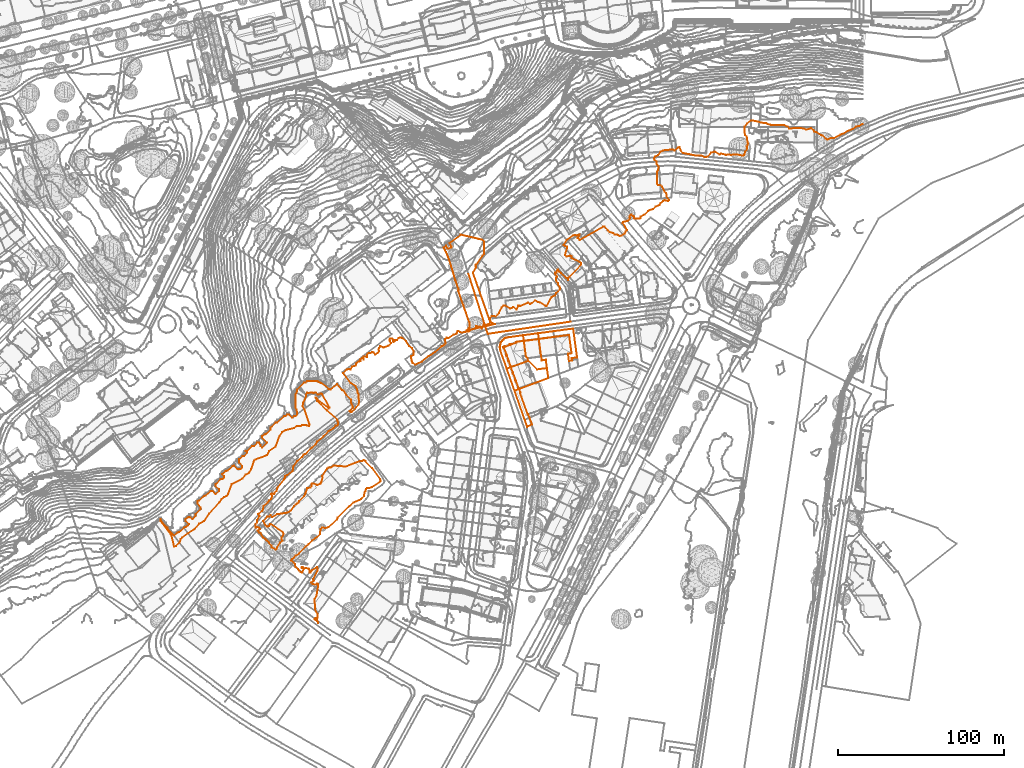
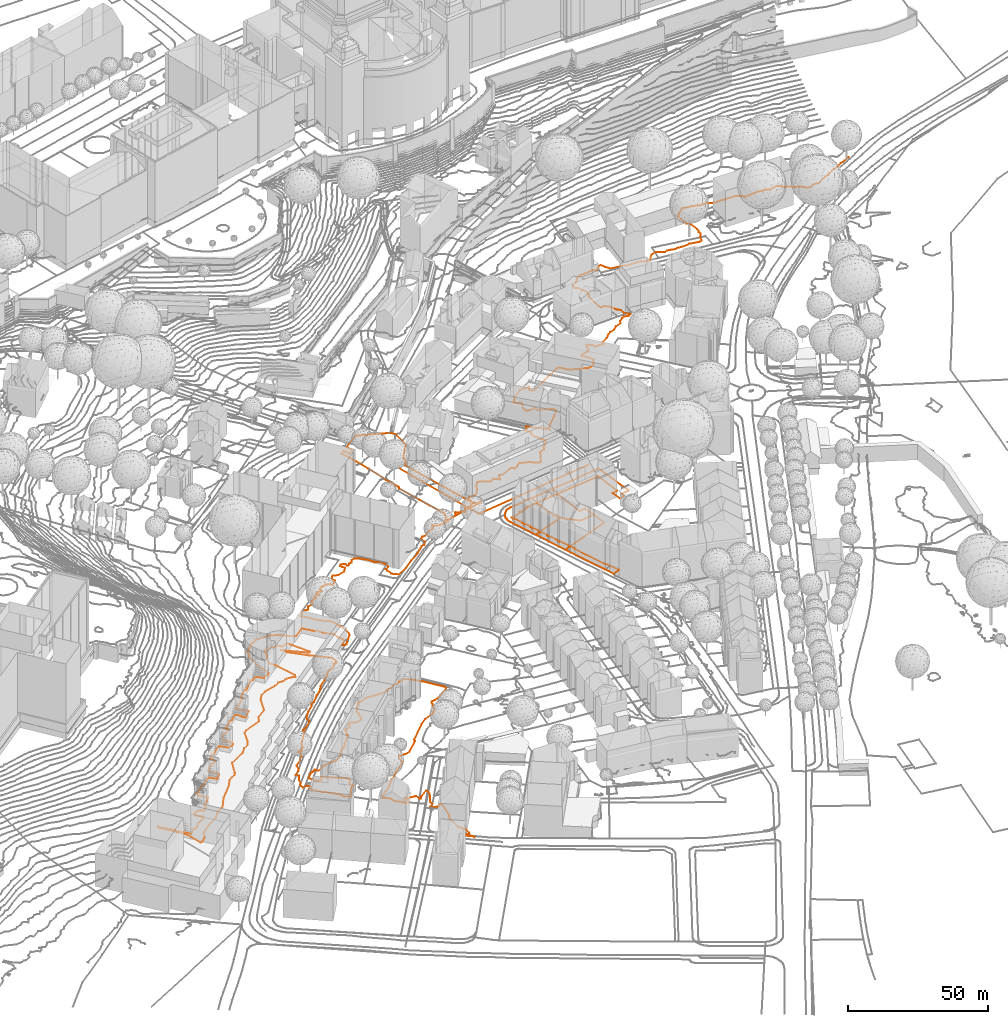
# Not in any storey, part 176 of 477: 4 civil elements, 4 geographic elements.
"""IFC4 model written with IfcOpenShell, lengths in metres."""

import ifcopenshell
import ifcopenshell.guid

model = None  # the IFC model being written
_history = None  # IfcOwnerHistory: only IFC2X3 demands one
_inside = {}  # id of a spatial element -> (the spatial element, [elements in it])
_under = {}  # id of a project, library or spatial element -> (it, [spatial elements below it])
_declared = {}  # id of a project -> (the project, [libraries it declares])
_typed = {}  # id of a type object -> (the type object, [elements of that type])
_made_of = {}  # id of a material, layer set ... -> (it, [elements and type objects made of it])


def new_model(schema):
    """Start an empty IFC model of exactly this schema.

    Asked for "IFC4X3", IfcOpenShell would pick the latest addendum, in which some entities
    have other attributes; the version numbers below select the first issue.
    IFC2X3 requires an IfcOwnerHistory on every rooted entity: one is made here for all.
    """
    global model, _history
    if schema == "IFC4X3":
        model = ifcopenshell.file(schema_version=(4, 3, 0, 0))
    else:
        model = ifcopenshell.file(schema=schema)
    _inside.clear()
    _under.clear()
    _declared.clear()
    _typed.clear()
    _made_of.clear()
    _history = None
    if model.schema == "IFC2X3":
        org = make("IfcOrganization", Name="unknown")
        user = make(
            "IfcPersonAndOrganization",
            ThePerson=make("IfcPerson", FamilyName="unknown"),
            TheOrganization=org,
        )
        app = make(
            "IfcApplication",
            ApplicationDeveloper=org,
            Version="unknown",
            ApplicationFullName="unknown",
            ApplicationIdentifier="unknown",
        )
        _history = make(
            "IfcOwnerHistory",
            OwningUser=user,
            OwningApplication=app,
            ChangeAction="ADDED",
            CreationDate=0,
        )
    return model


def make(cls, **values):
    """One entity of the class cls with the attributes given. An attribute that is None is left unset."""
    return model.create_entity(
        cls, **{name: value for name, value in values.items() if value is not None}
    )


def entity(cls, *values):
    """Any entity or typed value of the class cls, its attributes in the order of the schema. None: left unset."""
    e = model.create_entity(cls)
    for i, value in enumerate(values):
        if value is not None:
            e[i] = value
    return e


def rooted(cls, **values):
    """An entity with a GlobalId (a new one), such as an element, a storey or a relation."""
    return make(cls, GlobalId=ifcopenshell.guid.new(), OwnerHistory=_history, **values)


def si_unit(unit_type, name, prefix=None):
    """IfcSIUnit, for example si_unit("LENGTHUNIT", "METRE", prefix="MILLI")."""
    return make("IfcSIUnit", UnitType=unit_type, Prefix=prefix, Name=name)


def assignment(units):
    """IfcUnitAssignment: the units of a project."""
    return None if units is None else make("IfcUnitAssignment", Units=units)


def point(xyz):
    """IfcCartesianPoint."""
    return None if xyz is None else make("IfcCartesianPoint", Coordinates=xyz)


def direction(xyz):
    """IfcDirection."""
    return None if xyz is None else make("IfcDirection", DirectionRatios=xyz)


def frame(location, z_axis=None, x_axis=None):
    """IfcAxis2Placement3D, a coordinate frame: its origin and axes. An axis left out is left unset."""
    return make(
        "IfcAxis2Placement3D",
        Location=point(location),
        Axis=direction(z_axis),
        RefDirection=direction(x_axis),
    )


def origin_with_axes():
    """The frame at (0, 0, 0) with the z axis (0, 0, 1) and the x axis (1, 0, 0) written out."""
    return frame((0.0, 0.0, 0.0), z_axis=(0.0, 0.0, 1.0), x_axis=(1.0, 0.0, 0.0))


def place(relative_to, where):
    """IfcLocalPlacement: puts the frame where relative to a parent placement (None: the world)."""
    return make(
        "IfcLocalPlacement", PlacementRelTo=relative_to, RelativePlacement=where
    )


def context(
    kind, dimensions, precision=None, world=None, true_north=None, identifier=None
):
    """IfcGeometricRepresentationContext, for example the 3D "Model" context."""
    return make(
        "IfcGeometricRepresentationContext",
        ContextIdentifier=identifier,
        ContextType=kind,
        CoordinateSpaceDimension=dimensions,
        Precision=precision,
        WorldCoordinateSystem=world,
        TrueNorth=true_north,
    )


def subcontext(parent, identifier, kind, view, scale=None):
    """IfcGeometricRepresentationSubContext, for example "Body" below "Model"."""
    return make(
        "IfcGeometricRepresentationSubContext",
        ContextIdentifier=identifier,
        ContextType=kind,
        ParentContext=parent,
        TargetScale=scale,
        TargetView=view,
    )


def project(units=None, contexts=None):
    """IfcProject with its units and contexts."""
    return rooted(
        "IfcProject",
        Name="project",
        RepresentationContexts=contexts,
        UnitsInContext=assignment(units),
    )


def spatial(cls, under=None, at=None, **own):
    """A site, building, storey or space (cls), placed at a placement, below another one or the project."""
    s = rooted(cls, ObjectPlacement=at, **own)
    if under is not None:
        _under.setdefault(under.id(), (under, []))[1].append(s)
    return s


def shape(context_of_items, identifier, shape_type, items):
    """IfcShapeRepresentation: the items that make up one representation, for example the "Body"."""
    return make(
        "IfcShapeRepresentation",
        ContextOfItems=context_of_items,
        RepresentationIdentifier=identifier,
        RepresentationType=shape_type,
        Items=items,
    )


def made_of(thing, what):
    """Note that an element or type object is made of a material, layer set ...; save() writes the relation."""
    if what is not None:
        _made_of.setdefault(what.id(), (what, []))[1].append(thing)
    return thing


def element(
    cls,
    number,
    at=None,
    inside=None,
    cuts=None,
    type_object=None,
    material=None,
    context=None,
    identifier="Body",
    shape_type=None,
    held_by="IfcProductDefinitionShape",
    body=None,
    shapes=None,
    **own,
):
    """One element of the class cls, such as IfcWall. Its Tag is "e" and its number.

    at: its placement. inside: the storey or other place that contains it. cuts: it is an
    opening in that element (IfcRelVoidsElement). A single representation is given by context,
    identifier, shape_type and body (its items); several are given by shapes. held_by: the class
    of the entity that holds the representations. save() writes the other relations.
    """
    e = rooted(cls, Tag="e%d" % number, ObjectPlacement=at, **own)
    if body is not None:
        shapes = [shape(context, identifier, shape_type, body)]
    if shapes is not None:
        e.Representation = make(held_by, Representations=shapes)
    if inside is not None:
        _inside.setdefault(inside.id(), (inside, []))[1].append(e)
    if cuts is not None:
        rooted(
            "IfcRelVoidsElement", RelatingBuildingElement=cuts, RelatedOpeningElement=e
        )
    if type_object is not None:
        _typed.setdefault(type_object.id(), (type_object, []))[1].append(e)
    return made_of(e, material)


def aggregate(whole, parts):
    """IfcRelAggregates: a whole, such as a stair, and the parts it consists of."""
    return rooted("IfcRelAggregates", RelatingObject=whole, RelatedObjects=parts)


def save(model, path):
    """Write the relations noted so far, then the file.

    IfcRelAggregates (storeys below a building ...), IfcRelContainedInSpatialStructure (elements
    in a storey), IfcRelDefinesByType, IfcRelAssociatesMaterial and IfcRelDeclares: one each for
    every whole, place, type object, material and project.
    """
    for whole, parts in _under.values():
        aggregate(whole, parts)
    for where, things in _inside.values():
        rooted(
            "IfcRelContainedInSpatialStructure",
            RelatedElements=things,
            RelatingStructure=where,
        )
    for kind, things in _typed.values():
        rooted("IfcRelDefinesByType", RelatedObjects=things, RelatingType=kind)
    for what, things in _made_of.values():
        rooted("IfcRelAssociatesMaterial", RelatedObjects=things, RelatingMaterial=what)
    for by, libraries in _declared.values():
        rooted("IfcRelDeclares", RelatingContext=by, RelatedDefinitions=libraries)
    model.write(path)


model = new_model("IFC4")

# Units and contexts
model_context = context("Model", 3, precision=1e-05, world=origin_with_axes())
body_context = subcontext(model_context, "Body", "Model", "MODEL_VIEW")
ifc_project = project(units=[si_unit("AREAUNIT", "SQUARE_METRE"), si_unit("LENGTHUNIT", "METRE")], contexts=[model_context])

# Sites
site_1_placement = place(None, origin_with_axes())
site_1 = spatial("IfcSite", under=ifc_project, at=site_1_placement, Name="Topoexport Site")
site_2_placement = place(site_1_placement, origin_with_axes())
site_2 = spatial("IfcSite", under=site_1, at=site_2_placement, Name="TPX_ROADS")

# Civil elements
civil_element_1_placement = place(site_2_placement, frame((462.358732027, 172.6317378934, 502.819), z_axis=(0.0, 0.0, 1.0), x_axis=(1.0, 0.0, 0.0)))
element("IfcCivilElement", 1, at=civil_element_1_placement, inside=site_2, Name="Road 162", ObjectType="ROAD", context=body_context, shape_type="GeometricCurveSet", body=[
    entity("IfcGeometricCurveSet", [entity("IfcIndexedPolyCurve", entity("IfcCartesianPointList3D", [[0.0, 0.0, 0.0], [49.6329999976, 7.3419997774, -0.313]]))]),
])
civil_element_2_placement = place(site_2_placement, frame((450.5677320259, 209.2797367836, 504.808), z_axis=(0.0, 0.0, 1.0), x_axis=(1.0, 0.0, 0.0)))
element("IfcCivilElement", 2, at=civil_element_2_placement, inside=site_2, Name="Road 190", ObjectType="ROAD", context=body_context, shape_type="GeometricCurveSet", body=[
    entity("IfcGeometricCurveSet", [entity("IfcIndexedPolyCurve", entity("IfcCartesianPointList3D", [[0.0, 0.0, 0.0], [11.7910000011, -36.6479988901, -1.989]]))]),
])

# Site
site_3_placement = place(site_1_placement, origin_with_axes())
site_3 = spatial("IfcSite", under=site_1, at=site_3_placement, Name="TPX_ROADS_OUTLINES")

# Civil elements
civil_element_3_placement = place(site_3_placement, frame((469.5587320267, 164.6087160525, 502.6723636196), z_axis=(0.0, 0.0, 1.0), x_axis=(1.0, 0.0, 0.0)))
element("IfcCivilElement", 3, at=civil_element_3_placement, inside=site_3, Name="Roads Outline 124", ObjectType="ROAD", context=body_context, shape_type="GeometricCurveSet", body=[
    entity("IfcGeometricCurveSet", [entity("IfcIndexedPolyCurve", entity("IfcCartesianPointList3D", [[0.3319999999, -1.9370000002, -0.0261911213], [0.1499999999, -1.3050000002, -0.0211173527], [0.0389999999, -0.656, -0.0157066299], [0.0, 0.0, 0.0], [0.0320000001, 0.6569999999, 0.0219089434], [0.1359999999, 1.307, 0.044104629], [0.3110000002, 1.9409999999, 0.0722247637], [0.554, 2.5519999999, 0.0823953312], [0.8620000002, 3.1329999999, 0.0780702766], [1.2379999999, 3.6839999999, 0.0678239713], [1.6719999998, 4.189, 0.079207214], [2.1600000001, 4.6429999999, 0.1172548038], [2.6949999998, 5.04, 0.1460648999], [3.2710000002, 5.3759999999, 0.1431471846], [3.8810000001, 5.645, 0.1394918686], [4.517, 5.845, 0.136038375], [5.1710000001, 5.973, 0.1343980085], [14.0299999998, 7.1629999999, 0.1014481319], [23.0290000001, 8.3729999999, 0.0641177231], [32.2480000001, 9.6139999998, 0.0109480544], [44.1260000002, 11.2139999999, 0.1710464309], [44.6540000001, 7.388, 0.0711498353], [44.6579999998, 7.3589999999, 0.0715601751], [46.5189999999, -6.1400000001, 0.2319731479], [43.2990000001, -6.584, -0.0811795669], [43.5010000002, -7.9910000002, -0.1553223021], [41.6179999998, -8.2620000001, -0.1706678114], [41.0240000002, -3.952, -0.2284783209], [43.1949999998, -3.6570000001, -0.2198172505], [41.7030000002, 7.3829999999, -0.1010707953], [33.0070000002, 6.1839999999, -0.0295043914], [32.9959999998, 6.264, -0.0297852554], [32.7089999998, 6.2239999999, -0.0277475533], [32.1239999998, 6.149, -0.0181783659], [32.1349999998, 6.0689999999, -0.0174580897], [29.5460000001, 5.727, 0.0904996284], [29.5359999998, 5.8059999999, 0.0921595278], [28.932, 5.726, 0.0677763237], [28.9419999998, 5.6469999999, 0.0661192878], [26.4049999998, 5.311, 0.0237884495], [26.395, 5.3899999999, 0.0256490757], [25.77, 5.307, 0.0284070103], [25.7799999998, 5.2279999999, 0.026546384], [23.4900000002, 4.9039999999, 0.0468456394], [21.1800000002, 4.6189999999, 0.0289938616], [21.1699999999, 4.6979999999, 0.0306465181], [20.5449999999, 4.615, 0.0310401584], [20.5550000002, 4.5359999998, 0.0291153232], [18.0, 4.1979999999, 0.047814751], [17.9890000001, 4.277, 0.0492596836], [17.3640000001, 4.1939999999, 0.0376280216], [17.3739999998, 4.115, 0.0361381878], [14.8169999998, 3.7759999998, 0.0399817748], [14.807, 3.855, 0.042619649], [14.4789999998, 3.8119999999, 0.0467001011], [10.7429999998, 3.317, 0.0565326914], [10.682, 3.5179999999, 0.0641525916], [9.838, 3.199, 0.0395894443], [9.9700000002, 2.848, 0.0298407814], [6.7429999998, 1.6299999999, 0.0740863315], [6.611, 1.9809999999, 0.0869099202], [6.0120000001, 1.7549999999, 0.0915891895], [6.1439999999, 1.4039999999, 0.0787617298], [2.9169999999, 0.1850000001, 0.0905818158], [2.784, 0.5359999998, 0.1022453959], [1.9339999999, 0.2149999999, 0.0600805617], [2.2420000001, -0.6330000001, 0.0586928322], [2.6090000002, -0.4990000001, 0.0757825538], [4.0440000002, -4.4470000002, -0.0738280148], [3.6779999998, -4.5800000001, -0.0696418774], [3.8900000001, -5.1629999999, -0.0715661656], [4.2560000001, -5.03, -0.0793668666], [5.3530000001, -8.047, -0.0686766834], [4.9870000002, -8.1800000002, -0.0605836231], [5.202, -8.7720000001, -0.0519659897], [5.5690000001, -8.639, -0.0595674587], [6.659, -11.6370000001, -0.2319727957], [6.2919999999, -11.77, -0.2305701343], [6.4020000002, -12.0730000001, -0.2421763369], [6.5070000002, -12.362, -0.2422369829], [6.8169999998, -12.2490000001, -0.243490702], [7.9180000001, -15.2750000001, -0.283399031], [7.608, -15.388, -0.2841883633], [7.8199999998, -15.9710000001, -0.3012674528], [8.1299999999, -15.858, -0.3004359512], [9.5660000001, -19.8090000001, -0.2853481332], [9.2590000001, -19.9210000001, -0.2878133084], [9.4819999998, -20.544, -0.3027872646], [9.7919999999, -20.4310000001, -0.2989393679], [11.2880000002, -24.5390000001, -0.3297951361], [11.0780000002, -24.618, -0.3345415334], [11.29, -25.2010000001, -0.3259507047], [11.5989999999, -25.0860000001, -0.3186921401], [12.3999999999, -27.284, -0.3625339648], [12.1000000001, -27.3940000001, -0.3552436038], [16.8489999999, -40.4040000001, -0.6179314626], [17.1320000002, -40.3050000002, -0.6199954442], [17.9160000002, -42.4399999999, -0.6017945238], [19.4139999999, -46.5180000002, -0.3999803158], [19.2349999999, -46.5790000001, -0.3997948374], [16.5890000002, -47.5280000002, -0.4460212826], [16.517, -47.925, -0.4575768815], [15.048, -43.7510000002, -0.4759334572], [8.8420000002, -26.118, -0.3751443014], [4.182, -12.8770000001, -0.2351152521], [0.3319999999, -1.9370000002, -0.0261911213]]))]),
])
civil_element_4_placement = place(site_3_placement, frame((435.7777320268, 224.5667160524, 506.8678124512), z_axis=(0.0, 0.0, 1.0), x_axis=(1.0, 0.0, 0.0)))
element("IfcCivilElement", 4, at=civil_element_4_placement, inside=site_3, Name="Roads Outline 133", ObjectType="ROAD", context=body_context, shape_type="GeometricCurveSet", body=[
    entity("IfcGeometricCurveSet", [entity("IfcIndexedPolyCurve", entity("IfcCartesianPointList3D", [[0.0, 0.0, 0.0], [1.574, 1.1800000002, -0.0753440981], [2.5040000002, -0.513, -0.2804932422], [2.6030000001, -0.6369999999, -0.2849304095], [2.7429999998, -0.7119999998, -0.2918651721], [2.9010000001, -0.727, -0.2989610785], [3.0520000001, -0.679, -0.3028852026], [4.5249999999, 0.088, -0.3384772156], [4.6469999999, 0.186, -0.3301687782], [4.7229999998, 0.3230000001, -0.3164536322], [4.7399999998, 0.4790000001, -0.2990198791], [4.6970000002, 0.6290000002, -0.2788312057], [3.6230000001, 2.7150000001, 0.0078996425], [10.3229999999, 7.736, -0.3838962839], [20.9249999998, 5.2110000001, -1.5080948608], [22.7510000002, 4.7760000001, -1.7125989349], [24.1710000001, 3.666, -2.0259136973], [24.1919999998, 2.5420000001, -2.0109813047], [24.3139999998, -4.0499999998, -2.1515177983], [23.3810000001, -4.899, -2.1660626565], [19.4950000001, -10.402, -1.9807447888], [19.3459999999, -10.6369999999, -1.9803013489], [19.2599999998, -10.902, -1.9829362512], [19.2439999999, -11.1799999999, -1.9927741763], [19.298, -11.453, -2.0050310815], [19.4180000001, -11.7039999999, -2.0201403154], [19.5970000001, -11.9169999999, -2.0358340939], [17.6030000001, -15.024, -2.161490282], [19.8229999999, -21.325, -2.5879884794], [27.4100000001, -42.9239999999, -3.8377351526], [27.7930000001, -44.0149999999, -3.8982199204], [27.9569999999, -44.389, -3.9158148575], [28.1710000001, -44.737, -3.9188859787], [28.4300000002, -45.0519999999, -3.9257347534], [28.7289999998, -45.3299999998, -3.9527618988], [29.0630000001, -45.5649999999, -3.9787966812], [29.4249999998, -45.753, -4.0033311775], [29.8100000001, -45.889, -4.0236272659], [30.2089999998, -45.973, -4.0439670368], [30.6159999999, -46.0019999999, -4.0582959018], [31.023, -45.9749999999, -4.0643809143], [13.8760000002, -49.9449999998, -3.8699005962], [14.3220000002, -49.6159999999, -3.8325243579], [14.7179999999, -49.2289999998, -3.8123769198], [15.0559999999, -48.791, -3.8058150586], [15.3309999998, -48.3099999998, -3.8007632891], [15.537, -47.7959999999, -3.7693880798], [15.6689999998, -47.2579999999, -3.6878566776], [15.7259999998, -46.7069999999, -3.6173345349], [15.719, -46.3049999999, -3.5851284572], [15.673, -45.905, -3.5502077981], [15.5860000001, -45.5119999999, -3.5495806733], [15.5409999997, -45.3629999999, -3.5508741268], [15.4920000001, -45.216, -3.5532168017], [13.4679999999, -39.45, -3.3145639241], [11.9780000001, -35.2049999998, -3.0498226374], [11.858, -34.8629999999, -3.0290631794], [8.7599999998, -26.037, -2.4131551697], [8.9010000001, -25.8159999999, -2.3939161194], [8.9810000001, -25.5659999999, -2.3743381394], [8.9929999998, -25.304, -2.3481829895], [8.9369999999, -25.048, -2.3059849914], [7.0550000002, -19.7379999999, -1.8873036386], [7.0189999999, -19.6359999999, -1.8800892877], [4.6119999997, -11.3129999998, -1.2294646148], [4.5619999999, -11.139, -1.2196751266], [3.2599999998, -7.3329999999, -0.8828962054], [2.7050000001, -5.825, -0.7409835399], [2.1000000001, -4.3369999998, -0.5570818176], [1.4479999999, -2.868, -0.3916074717], [0.747, -1.422, -0.1938795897], [0.0, 0.0, 0.0]]))]),
])

# Site
site_4_placement = place(site_1_placement, origin_with_axes())
site_4 = spatial("IfcSite", under=site_1, at=site_4_placement, Name="TPX_CADASTRES")

# Geographic elements
geographic_element_1_placement = place(site_4_placement, frame((473.7407320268, 151.7317160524, 502.4372483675), z_axis=(0.0, 0.0, 1.0), x_axis=(1.0, 0.0, 0.0)))
element("IfcGeographicElement", 5, at=geographic_element_1_placement, inside=site_4, Name="Cadastre 163", PredefinedType="NOTDEFINED", context=body_context, shape_type="GeometricCurveSet", body=[
    entity("IfcGeometricCurveSet", [entity("IfcIndexedPolyCurve", entity("IfcCartesianPointList3D", [[0.0, 0.0, 0.0], [2.3130000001, 0.838, -0.0093374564], [11.5970000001, 4.2, -0.0440435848], [12.923, 4.6799999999, 0.0190475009], [18.2280000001, -0.48, 0.0417653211], [24.1869999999, 0.3300000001, 0.0468724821], [24.997, -5.6199999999, -0.0432343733], [4.6600000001, -13.2409999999, -0.1400290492], [0.0, 0.0, 0.0]]))]),
])
geographic_element_2_placement = place(site_4_placement, frame((483.5887320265, 171.7717160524, 502.7738117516), z_axis=(0.0, 0.0, 1.0), x_axis=(1.0, 0.0, 0.0)))
element("IfcGeographicElement", 6, at=geographic_element_2_placement, inside=site_4, Name="Cadastre 164", PredefinedType="NOTDEFINED", context=body_context, shape_type="GeometricCurveSet", body=[
    entity("IfcGeometricCurveSet", [entity("IfcIndexedPolyCurve", entity("IfcCartesianPointList3D", [[0.0, 0.0, 0.0], [8.9990000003, 1.21, -0.0373304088], [9.4600000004, -2.2590000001, -0.0546024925], [10.8360000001, -12.612, -0.2369224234], [11.1640000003, -15.0800000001, -0.4512035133], [13.6690000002, -14.7549999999, -0.3705092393], [14.3390000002, -19.71, -0.2896909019], [8.3800000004, -20.52, -0.2947980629], [3.0750000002, -15.3600000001, -0.3175158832], [2.5850000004, -13.77, -0.2928243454], [1.7000000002, -12.6699999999, -0.3591065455], [0.452, -3.3700000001, -0.055390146], [0.0, 0.0, 0.0]]))]),
])
geographic_element_3_placement = place(site_4_placement, frame((469.5587320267, 164.6087160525, 502.6723636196), z_axis=(0.0, 0.0, 1.0), x_axis=(1.0, 0.0, 0.0)))
element("IfcGeographicElement", 7, at=geographic_element_3_placement, inside=site_4, Name="Cadastre 166", PredefinedType="NOTDEFINED", context=body_context, shape_type="GeometricCurveSet", body=[
    entity("IfcGeometricCurveSet", [entity("IfcIndexedPolyCurve", entity("IfcCartesianPointList3D", [[0.3319999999, -1.9370000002, -0.0261911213], [0.1499999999, -1.3050000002, -0.0211173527], [0.0389999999, -0.656, -0.0157066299], [0.0, 0.0, 0.0], [0.0320000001, 0.6569999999, 0.0219089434], [0.1359999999, 1.307, 0.044104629], [0.3110000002, 1.9409999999, 0.0722247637], [0.554, 2.5519999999, 0.0823953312], [0.8620000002, 3.1329999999, 0.0780702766], [1.2379999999, 3.6839999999, 0.0678239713], [1.6719999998, 4.189, 0.079207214], [2.1600000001, 4.6429999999, 0.1172548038], [2.6949999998, 5.04, 0.1460648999], [3.2710000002, 5.3759999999, 0.1431471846], [3.8810000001, 5.645, 0.1394918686], [4.517, 5.845, 0.136038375], [5.1710000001, 5.973, 0.1343980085], [14.0299999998, 7.1629999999, 0.1014481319], [14.4819999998, 3.7929999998, 0.0460579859], [15.73, -5.507, -0.2576584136], [16.6150000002, -6.6070000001, -0.1913762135], [17.105, -8.1970000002, -0.2160677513], [15.7790000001, -8.6770000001, -0.2791588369], [6.4950000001, -12.0390000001, -0.2444527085], [4.182, -12.8770000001, -0.2351152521], [0.3319999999, -1.9370000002, -0.0261911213]]))]),
])

# Site
site_5_placement = place(site_1_placement, origin_with_axes())
site_5 = spatial("IfcSite", under=site_1, at=site_5_placement, Name="TPX_CONTOUR_LINES")

# Geographic element
geographic_element_4_placement = place(site_5_placement, frame((265.3958787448, 60.1707160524, 503.0), z_axis=(0.0, 0.0, 1.0), x_axis=(1.0, 0.0, 0.0)))
element("IfcGeographicElement", 8, at=geographic_element_4_placement, inside=site_5, Name="Contour Line 503.0 m", PredefinedType="NOTDEFINED", context=body_context, shape_type="GeometricCurveSet", body=[
    entity("IfcGeometricCurveSet", [entity("IfcIndexedPolyCurve", entity("IfcCartesianPointList3D", [[422.7818532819, 238.789410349, 0.0], [422.2818532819, 238.789410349, 0.0], [420.2818532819, 237.5673653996, 0.0], [418.3680721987, 237.0, 0.0], [416.2818532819, 235.6503783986, 0.0], [413.2818532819, 234.5187478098, 0.0], [410.9166997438, 233.0, 0.0], [409.2818532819, 232.4039944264, 0.0], [405.2818532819, 230.2259304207, 0.0], [403.2818532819, 230.3204281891, 0.0], [401.2818532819, 229.3770384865, 0.0], [400.0065006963, 230.0, 0.0], [398.2818532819, 231.6435045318, 0.0], [397.2818532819, 231.9455615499, 0.0], [394.2818532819, 233.8281583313, 0.0], [393.2818532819, 234.097650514, 0.0], [392.8705413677, 235.0, 0.0], [391.2818532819, 236.1024524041, 0.0], [388.2818532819, 235.2834535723, 0.0], [386.7802809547, 236.0, 0.0], [383.2818532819, 236.3174590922, 0.0], [378.2818532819, 235.94663144, 0.0], [377.1732406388, 237.0, 0.0], [375.2818532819, 238.0171115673, 0.0], [367.2818532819, 238.1636344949, 0.0], [365.2818532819, 238.628859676, 0.0], [364.2818532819, 239.2527593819, 0.0], [361.2818532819, 239.458574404, 0.0], [359.2818532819, 240.1692148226, 0.0], [355.2818532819, 240.8845548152, 0.0], [352.8231376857, 239.0, 0.0], [351.2554307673, 237.0, 0.0], [351.6117842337, 232.0, 0.0], [352.7144495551, 231.0, 0.0], [353.3548316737, 227.0, 0.0], [353.2813609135, 226.0, 0.0], [352.7241021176, 225.0, 0.0], [353.0349441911, 224.0, 0.0], [351.7079865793, 222.0, 0.0], [351.2030987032, 220.0, 0.0], [350.2818532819, 219.6086908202, 0.0], [346.2818532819, 220.4443243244, 0.0], [343.2818532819, 220.0904869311, 0.0], [341.2818532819, 220.3807539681, 0.0], [340.2818532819, 220.0920502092, 0.0], [337.2818532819, 220.8593088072, 0.0], [336.2818532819, 220.3866049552, 0.0], [333.2818532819, 222.0442036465, 0.0], [331.2818532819, 221.4536231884, 0.0], [329.2818532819, 219.0634306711, 0.0], [327.2818532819, 218.7403290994, 0.0], [325.2818532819, 219.7896105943, 0.0], [320.2818532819, 219.8741830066, 0.0], [319.2818532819, 220.3625434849, 0.0], [314.2818532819, 221.1654501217, 0.0], [312.9737345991, 223.0, 0.0], [312.2818532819, 224.885372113, 0.0], [311.2818532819, 224.5307045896, 0.0], [309.2818532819, 222.8159831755, 0.0], [308.2818532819, 223.3997429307, 0.0], [302.2818532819, 222.8161175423, 0.0], [300.8756249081, 222.0, 0.0], [299.2818532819, 219.896353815, 0.0], [297.459254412, 219.0, 0.0], [297.0113987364, 218.0, 0.0], [297.1988657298, 217.0, 0.0], [298.3473218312, 216.0, 0.0], [298.4888532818, 215.0, 0.0], [299.6081860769, 213.0, 0.0], [299.3878984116, 211.0, 0.0], [298.6367426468, 210.0, 0.0], [298.6697819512, 203.0, 0.0], [299.2818532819, 201.8469493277, 0.0], [300.2818532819, 202.0713178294, 0.0], [301.8321035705, 201.0, 0.0], [303.3495919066, 198.0, 0.0], [304.325365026, 197.0, 0.0], [304.5229557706, 195.0, 0.0], [306.1046812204, 193.0, 0.0], [305.2818532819, 192.401115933, 0.0], [303.2818532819, 192.8372978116, 0.0], [302.2818532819, 192.3074558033, 0.0], [300.7709309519, 191.0, 0.0], [300.2818532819, 189.9667381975, 0.0], [297.890754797, 189.0, 0.0], [296.2818532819, 187.5288531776, 0.0], [294.2818532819, 186.9144981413, 0.0], [293.2818532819, 186.2340261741, 0.0], [291.2818532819, 184.2820976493, 0.0], [288.9176148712, 183.0, 0.0], [288.7176397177, 182.0, 0.0], [288.2818532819, 181.7174929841, 0.0], [286.2818532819, 181.9169769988, 0.0], [285.2818532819, 181.7314788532, 0.0], [284.9115988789, 182.0, 0.0], [284.9408198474, 183.0, 0.0], [284.2818532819, 183.1971626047, 0.0], [283.2818532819, 184.118438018, 0.0], [282.9277783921, 184.0, 0.0], [282.2177332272, 183.0, 0.0], [282.5134586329, 182.0, 0.0], [281.2818532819, 180.4616279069, 0.0], [278.2818532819, 179.8220509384, 0.0], [278.1384029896, 179.0, 0.0], [279.629118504, 177.0, 0.0], [280.6916157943, 175.0, 0.0], [279.8221439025, 174.0, 0.0], [279.2818532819, 172.7151481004, 0.0], [277.2818532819, 171.5566811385, 0.0], [276.2818532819, 171.3786363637, 0.0], [275.2818532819, 172.0087197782, 0.0], [273.2818532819, 172.3052533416, 0.0], [272.2818532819, 173.158819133, 0.0], [270.2818532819, 173.6386397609, 0.0], [269.2818532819, 174.5058329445, 0.0], [267.2818532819, 177.0895522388, 0.0], [266.2818532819, 176.879946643, 0.0], [252.2818532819, 168.9250936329, 0.0], [251.0694364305, 170.0, 0.0], [252.2818532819, 172.1073910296, 0.0], [250.2818532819, 171.6925465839, 0.0], [249.2818532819, 171.9875621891, 0.0], [248.2818532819, 171.6590136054, 0.0], [244.4708257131, 169.0, 0.0], [242.4071446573, 166.0, 0.0], [243.2818532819, 165.2638548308, 0.0], [244.4938447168, 165.0, 0.0], [244.658914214, 164.0, 0.0], [243.5989086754, 161.0, 0.0], [243.5034276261, 160.0, 0.0], [244.2818532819, 158.9934762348, 0.0], [246.2818532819, 159.4426934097, 0.0], [247.2818532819, 159.279710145, 0.0], [247.46977928, 159.0, 0.0], [247.2818532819, 157.9350649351, 0.0], [252.2818532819, 155.6773869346, 0.0], [252.9781342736, 155.0, 0.0], [253.1459761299, 154.0, 0.0], [246.1339504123, 147.0, 0.0], [245.2949919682, 146.0, 0.0], [245.2818532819, 144.9172093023, 0.0], [245.0675675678, 146.0, 0.0], [244.2818532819, 146.0203327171, 0.0], [240.888043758, 149.0, 0.0], [239.7596460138, 150.0, 0.0], [239.2818532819, 151.1021336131, 0.0], [238.7959963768, 151.0, 0.0], [238.2818532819, 149.40397351, 0.0], [237.2818532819, 149.4360189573, 0.0], [237.6654149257, 148.0, 0.0], [238.6559921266, 147.0, 0.0], [238.073062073, 146.0, 0.0], [238.1732987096, 144.0, 0.0], [239.1050620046, 143.0, 0.0], [239.1601443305, 142.0, 0.0], [240.020771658, 141.0, 0.0], [240.4233437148, 140.0, 0.0], [240.1937844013, 139.0, 0.0], [238.043401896, 137.0, 0.0], [237.2818532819, 135.6062343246, 0.0], [235.2818532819, 134.730920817, 0.0], [232.2818532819, 129.1096455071, 0.0], [231.2818532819, 129.3735632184, 0.0], [228.2818532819, 131.3860569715, 0.0], [227.2818532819, 131.5619377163, 0.0], [225.2818532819, 132.5933993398, 0.0], [223.2818532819, 130.8585774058, 0.0], [222.2818532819, 130.3657433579, 0.0], [221.2818532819, 131.2409000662, 0.0], [216.2818532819, 129.2693125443, 0.0], [215.2818532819, 129.6128550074, 0.0], [214.2818532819, 126.9456168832, 0.0], [212.2818532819, 128.6872493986, 0.0], [211.2818532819, 127.8795698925, 0.0], [210.2818532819, 127.6672394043, 0.0], [207.2818532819, 129.503720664, 0.0], [206.2818532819, 129.6037588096, 0.0], [205.2818532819, 128.3800865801, 0.0], [203.5767484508, 125.0, 0.0], [202.7188857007, 124.0, 0.0], [201.538014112, 123.0, 0.0], [199.2818532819, 123.0778748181, 0.0], [198.2818532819, 122.0912280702, 0.0], [198.5175653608, 120.0, 0.0], [198.2818532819, 119.1706521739, 0.0], [197.2818532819, 118.2560471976, 0.0], [196.2818532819, 117.8763636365, 0.0], [195.2818532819, 118.1885125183, 0.0], [194.4780856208, 118.0, 0.0], [193.2818532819, 115.6410815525, 0.0], [192.2818532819, 116.8554216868, 0.0], [191.2818532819, 116.5094001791, 0.0], [190.2818532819, 117.2646310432, 0.0], [189.7642062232, 117.0, 0.0], [189.693777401, 116.0, 0.0], [189.2818532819, 115.7265367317, 0.0], [187.2818532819, 115.0454545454, 0.0], [185.2818532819, 113.9638482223, 0.0], [181.2818532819, 113.2882870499, 0.0], [180.2818532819, 113.3996255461, 0.0], [179.2818532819, 114.260425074, 0.0], [178.6749567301, 114.0, 0.0], [178.2818532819, 112.6216216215, 0.0], [176.2818532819, 111.978388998, 0.0], [173.2818532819, 110.0080183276, 0.0], [172.2818532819, 110.08216971, 0.0], [171.2818532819, 109.1940881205, 0.0], [171.4739500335, 107.0, 0.0], [171.0011562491, 106.0, 0.0], [170.2818532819, 105.3587836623, 0.0], [169.2818532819, 105.1575120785, 0.0], [165.2818532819, 101.5480636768, 0.0], [161.2818532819, 99.0726070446, 0.0], [157.2818532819, 95.9115284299, 0.0], [153.2818532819, 93.8695652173, 0.0], [151.7853335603, 95.0, 0.0], [151.2818532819, 95.7746047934, 0.0], [150.9144211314, 98.0, 0.0], [150.8284598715, 99.0, 0.0], [152.4304703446, 100.0, 0.0], [152.3296872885, 102.0, 0.0], [151.2818532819, 103.7863247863, 0.0], [149.7073672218, 105.0, 0.0], [147.6520445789, 108.0, 0.0], [145.4753433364, 110.0, 0.0], [144.2818532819, 110.3542319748, 0.0], [143.1924561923, 110.0, 0.0], [142.2818532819, 108.7298850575, 0.0], [141.2818532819, 108.7240506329, 0.0], [140.9118662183, 108.0, 0.0], [140.2818532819, 107.6047077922, 0.0], [139.9698737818, 108.0, 0.0], [139.9533962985, 109.0, 0.0], [139.2818532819, 109.5388485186, 0.0], [138.2818532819, 109.6328916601, 0.0], [137.7698734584, 109.0, 0.0], [138.0058877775, 108.0, 0.0], [138.7026976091, 107.0, 0.0], [137.2818532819, 105.28125, 0.0], [134.2818532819, 104.3450669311, 0.0], [132.2818532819, 105.0176870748, 0.0], [131.5677131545, 104.0, 0.0], [131.2881261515, 103.0, 0.0], [131.5928714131, 102.0, 0.0], [130.610269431, 101.0, 0.0], [129.2818532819, 100.080952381, 0.0], [128.2818532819, 101.3113350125, 0.0], [127.2818532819, 101.5713207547, 0.0], [126.5404233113, 101.0, 0.0], [125.2818532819, 100.7931442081, 0.0], [124.401853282, 100.0, 0.0], [124.2818532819, 98.5881924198, 0.0], [122.2818532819, 98.8876404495, 0.0], [121.5908911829, 98.0, 0.0], [122.2818532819, 97.3489010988, 0.0], [122.2818532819, 96.9007036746, 0.0], [121.2818532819, 97.7649667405, 0.0], [120.2592903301, 97.0, 0.0], [120.4143894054, 96.0, 0.0], [119.2818532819, 95.8221138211, 0.0], [117.8720916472, 95.0, 0.0], [117.7594526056, 94.0, 0.0], [117.2818532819, 93.3445475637, 0.0], [115.2818532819, 92.807439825, 0.0], [114.2818532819, 91.0409556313, 0.0], [113.2818532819, 91.2914831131, 0.0], [111.961377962, 91.0, 0.0], [109.9575353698, 89.0, 0.0], [114.4818532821, 83.0, 0.0], [117.3627495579, 81.0, 0.0], [118.3503500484, 79.0, 0.0], [118.7316715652, 77.0, 0.0], [119.2351606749, 76.0, 0.0], [119.4585735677, 71.0, 0.0], [119.1292685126, 70.0, 0.0], [115.2818532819, 65.5844004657, 0.0], [114.2818532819, 65.4833197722, 0.0], [113.7684107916, 66.0, 0.0], [115.758611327, 68.0, 0.0], [115.6177342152, 69.0, 0.0], [114.7403328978, 71.0, 0.0], [114.5816865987, 73.0, 0.0], [111.761105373, 76.0, 0.0], [110.2818532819, 78.2392279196, 0.0], [109.2818532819, 78.648736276, 0.0], [106.2818532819, 82.1488425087, 0.0], [102.2818532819, 79.0832747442, 0.0], [101.2818532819, 79.2836057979, 0.0], [96.720682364, 83.0, 0.0], [95.2818532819, 83.3518576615, 0.0], [94.5709453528, 84.0, 0.0], [88.2818532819, 84.0951393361, 0.0], [87.2818532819, 83.1581027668, 0.0], [86.2818532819, 83.029523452, 0.0], [82.2818532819, 78.9247014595, 0.0], [81.9187375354, 77.0, 0.0], [81.1835662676, 76.0, 0.0], [81.1986024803, 68.0, 0.0], [81.990807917, 67.0, 0.0], [82.2466577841, 64.0, 0.0], [81.2818532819, 63.0341548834, 0.0], [80.2818532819, 63.0371198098, 0.0], [79.2818532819, 62.0359531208, 0.0], [77.2818532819, 64.0371238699, 0.0], [76.2818532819, 64.0370975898, 0.0], [75.2818532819, 63.0371187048, 0.0], [74.2818532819, 63.0369746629, 0.0], [70.2818532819, 59.0590300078, 0.0], [69.2818532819, 59.0363519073, 0.0], [66.2319085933, 56.0, 0.0], [66.2453311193, 55.0, 0.0], [63.2818532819, 52.0392426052, 0.0], [62.5547907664, 52.0, 0.0], [61.2448821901, 51.0, 0.0], [61.2448877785, 50.0, 0.0], [64.1197772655, 47.0, 0.0], [61.2818532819, 44.0399780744, 0.0], [60.3271287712, 45.0, 0.0], [60.2818532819, 45.6261735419, 0.0], [59.2818532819, 47.0371238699, 0.0], [58.2818532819, 47.0370136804, 0.0], [56.2818532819, 45.0979038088, 0.0], [55.2818532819, 45.0368809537, 0.0], [52.2818532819, 42.0788189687, 0.0], [51.2818532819, 42.036777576, 0.0], [52.2459490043, 41.0, 0.0], [50.2818532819, 39.057481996, 0.0], [49.2818532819, 39.0368914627, 0.0], [47.244423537, 37.0, 0.0], [47.2447294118, 35.0, 0.0], [49.2453998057, 33.0, 0.0], [49.0856904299, 32.0, 0.0], [48.2818532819, 31.1907839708, 0.0], [46.2818532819, 31.0371238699, 0.0], [44.2818532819, 33.109707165, 0.0], [43.2818532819, 33.0368892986, 0.0], [40.2818532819, 30.0973000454, 0.0], [39.2818532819, 30.0369636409, 0.0], [37.2447911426, 28.0, 0.0], [38.2447294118, 27.0, 0.0], [38.2036581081, 26.0, 0.0], [37.2818532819, 25.0833065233, 0.0], [36.2818532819, 25.0370062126, 0.0], [33.1204896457, 22.0, 0.0], [33.2447294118, 21.0, 0.0], [35.2325984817, 19.0, 0.0], [35.2457862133, 18.0, 0.0], [33.2818532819, 16.0328867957, 0.0], [31.2818532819, 18.0371238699, 0.0], [30.2818532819, 18.0368834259, 0.0], [27.2818532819, 15.0458329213, 0.0], [26.2818532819, 15.0367142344, 0.0], [23.2818532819, 12.0428224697, 0.0], [22.2450200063, 12.0, 0.0], [22.2818532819, 10.4937320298, 0.0], [24.2447294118, 8.0, 0.0], [24.245281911, 7.0, 0.0], [21.2818532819, 4.0620454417, 0.0], [21.246022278, 3.0, 0.0], [19.2818532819, 1.0337461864, 0.0], [18.2818532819, 2.0371238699, 0.0], [17.2818532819, 2.1346074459, 0.0], [16.2818532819, 2.0369762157, 0.0], [15.2447339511, 1.0, 0.0], [15.2452465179, 0.0, 0.0], [17.2391881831, -2.0, 0.0], [16.2818532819, -2.9587852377, 0.0], [15.2818532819, -3.8194225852, 0.0], [14.2818532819, -3.9651737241, 0.0], [11.2818532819, -6.8946223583, 0.0], [10.2818532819, -6.9663145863, 0.0], [8.2818532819, -8.9390184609, 0.0], [4.3102306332, -5.0, 0.0], [4.3107487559, -4.0, 0.0], [0.3132278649, 0.0, 0.0], [0.2406763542, 1.0, 0.0], [0.0, 0.0, 0.0], [6.2140838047, -8.0, 0.0], [6.7116399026, -9.0, 0.0], [8.2818532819, -15.4851190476, 0.0], [9.2818532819, -15.1728608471, 0.0], [11.5307117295, -13.0, 0.0], [12.1973783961, -11.0, 0.0], [13.1586193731, -10.0, 0.0], [16.2818532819, -7.5866503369, 0.0], [20.5118532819, -5.0, 0.0], [23.2818532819, -1.6892193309, 0.0], [26.3434686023, 0.0, 0.0], [29.2818532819, 4.3834661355, 0.0], [35.2818532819, 10.844099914, 0.0], [36.7054867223, 13.0, 0.0], [38.2818532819, 14.2370475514, 0.0], [39.9243234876, 15.0, 0.0], [40.6372378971, 16.0, 0.0], [42.9254996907, 22.0, 0.0], [49.2818532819, 25.4323335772, 0.0], [51.2818532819, 27.692949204, 0.0], [53.4785587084, 29.0, 0.0], [54.5760113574, 31.0, 0.0], [56.2818532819, 36.1800554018, 0.0], [57.2818532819, 36.9767441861, 0.0], [64.2818532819, 39.5576642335, 0.0], [65.3803839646, 42.0, 0.0], [69.2818532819, 44.6968130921, 0.0], [71.5385974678, 51.0, 0.0], [73.2818532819, 53.3712765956, 0.0], [75.2818532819, 54.5737451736, 0.0], [80.2818532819, 55.8664666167, 0.0], [82.2818532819, 57.0756081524, 0.0], [84.2818532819, 56.8848881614, 0.0], [85.2818532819, 57.5448785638, 0.0], [86.2818532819, 57.6706327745, 0.0], [88.2818532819, 57.4326818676, 0.0], [89.3478598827, 57.0, 0.0], [89.775209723, 58.0, 0.0], [86.6868215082, 67.0, 0.0], [85.5605778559, 69.0, 0.0], [85.8537978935, 71.0, 0.0], [87.711125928, 75.0, 0.0], [87.4971310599, 76.0, 0.0], [88.2818532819, 77.0909090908, 0.0], [89.2818532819, 76.8661188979, 0.0], [90.2818532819, 77.2124999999, 0.0], [92.2818532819, 76.912087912, 0.0], [93.2818532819, 77.285490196, 0.0], [94.621138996, 76.0, 0.0], [95.2818532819, 75.9517601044, 0.0], [96.2818532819, 76.450899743, 0.0], [97.2818532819, 76.3786476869, 0.0], [101.7444112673, 68.0, 0.0], [101.2818532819, 67.5720416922, 0.0], [94.3141367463, 73.0, 0.0], [94.2818532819, 73.6119402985, 0.0], [93.4431436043, 74.0, 0.0], [93.2515502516, 74.0, 0.0], [94.2172863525, 73.0, 0.0], [94.2215896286, 72.0, 0.0], [100.2818532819, 66.2213114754, 0.0], [106.2818532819, 61.0112075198, 0.0], [106.7058547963, 60.0, 0.0], [106.9263594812, 58.0, 0.0], [106.2818532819, 57.1815960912, 0.0], [105.2818532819, 57.3218562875, 0.0], [104.2818532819, 55.7614213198, 0.0], [101.1005533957, 54.0, 0.0], [98.2818532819, 50.9368222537, 0.0], [94.2818532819, 47.660455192, 0.0], [93.2357711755, 46.0, 0.0], [91.2818532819, 44.0728037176, 0.0], [90.2818532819, 43.4343387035, 0.0], [87.2818532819, 40.2461417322, 0.0], [86.2529762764, 40.0, 0.0], [85.2818532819, 38.4649098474, 0.0], [82.2818532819, 35.8521183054, 0.0], [80.0805601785, 33.0, 0.0], [79.7493569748, 32.0, 0.0], [79.8927228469, 31.0, 0.0], [79.4413594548, 30.0, 0.0], [76.2818532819, 27.4269134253, 0.0], [75.0968603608, 27.0, 0.0], [74.9893042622, 26.0, 0.0], [74.5017794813, 25.0, 0.0], [70.4143036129, 20.0, 0.0], [69.7668031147, 18.0, 0.0], [68.7464907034, 17.0, 0.0], [68.3802343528, 16.0, 0.0], [67.2818532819, 16.3522090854, 0.0], [66.7037123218, 16.0, 0.0], [67.2810213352, 15.0, 0.0], [66.5320054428, 13.0, 0.0], [65.2818532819, 12.2104904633, 0.0], [64.5778078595, 11.0, 0.0], [62.0717757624, 9.0, 0.0], [61.7202882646, 7.0, 0.0], [61.1812883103, 6.0, 0.0], [58.8072140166, 4.0, 0.0], [59.6502743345, 3.0, 0.0], [58.2818532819, 0.5536277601, 0.0], [58.0036163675, -1.0, 0.0], [57.145967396, -2.0, 0.0], [57.1026741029, -3.0, 0.0], [57.2818532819, -4.0524934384, 0.0], [58.2818532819, -3.7881923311, 0.0], [59.2818532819, -4.0806174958, 0.0], [59.9407346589, -5.0, 0.0], [58.5635908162, -6.0, 0.0], [59.4193091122, -7.0, 0.0], [60.2818532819, -7.4843253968, 0.0], [61.8477407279, -10.0, 0.0], [63.2818532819, -10.9766854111, 0.0], [64.0203060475, -12.0, 0.0], [65.2878634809, -13.0, 0.0], [66.8179252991, -15.0, 0.0], [66.9554825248, -16.0, 0.0], [69.2818532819, -17.3328859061, 0.0], [69.8559273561, -17.0, 0.0], [70.0486310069, -16.0, 0.0], [71.9141020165, -13.0, 0.0], [73.3627224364, -12.0, 0.0], [72.7948492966, -11.0, 0.0], [72.8301578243, -10.0, 0.0], [73.7824429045, -9.0, 0.0], [74.0395659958, -8.0, 0.0], [73.7971499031, -7.0, 0.0], [66.2818532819, -1.829612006, 0.0], [65.9187487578, -2.0, 0.0], [65.2818532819, -3.2696192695, 0.0], [64.2818532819, -3.37012987, 0.0], [63.3657818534, -3.0, 0.0], [61.8111866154, 0.0, 0.0], [64.2818532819, 2.4814264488, 0.0], [65.2818532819, 2.6247915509, 0.0], [66.2818532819, 3.5785776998, 0.0], [67.2818532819, 2.1972437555, 0.0], [70.0635580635, 4.0, 0.0], [76.2818532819, 4.8568820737, 0.0], [78.2818532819, 6.0384615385, 0.0], [80.2818532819, 8.809937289, 0.0], [81.2818532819, 9.8611378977, 0.0], [82.2818532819, 10.2933212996, 0.0], [83.0314942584, 11.0, 0.0], [83.5581295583, 12.0, 0.0], [86.4076938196, 15.0, 0.0], [87.1061940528, 16.0, 0.0], [88.2818532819, 19.717948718, 0.0], [90.3247104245, 20.0, 0.0], [90.8615242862, 21.0, 0.0], [90.9143319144, 22.0, 0.0], [91.2818532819, 22.3369612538, 0.0], [92.2818532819, 22.431163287, 0.0], [94.2818532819, 21.5485592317, 0.0], [96.2818532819, 22.2992501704, 0.0], [96.7361175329, 23.0, 0.0], [97.5605517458, 26.0, 0.0], [97.2983039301, 27.0, 0.0], [100.2818532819, 31.5367702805, 0.0], [101.0361742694, 32.0, 0.0], [102.2818532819, 32.0187476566, 0.0], [104.2818532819, 33.2052190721, 0.0], [111.2818532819, 32.6259644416, 0.0], [120.0562698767, 36.0, 0.0], [121.2818532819, 36.0305093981, 0.0], [122.2818532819, 36.4057807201, 0.0], [123.2818532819, 36.0566957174, 0.0], [127.2818532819, 31.8758748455, 0.0], [132.2818532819, 25.1822853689, 0.0], [132.51844993, 24.0, 0.0], [132.2818532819, 23.7108433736, 0.0], [127.2818532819, 20.3596133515, 0.0], [125.2818532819, 19.6197005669, 0.0], [124.2818532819, 19.650777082, 0.0], [123.5857857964, 19.0, 0.0], [123.3739118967, 18.0, 0.0], [122.7715331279, 17.0, 0.0], [122.5196019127, 15.0, 0.0], [120.6329609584, 13.0, 0.0], [116.2818532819, 11.0674725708, 0.0], [113.7106476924, 9.0, 0.0], [106.5987582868, 2.0, 0.0], [106.2818532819, 0.8982359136, 0.0], [101.2818532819, -3.7484699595, 0.0], [99.2818532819, -4.2974307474, 0.0], [97.2818532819, -4.125, 0.0], [96.3771320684, -5.0, 0.0], [95.926818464, -8.0, 0.0], [93.2818532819, -10.4399024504, 0.0], [91.0930849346, -12.0, 0.0], [89.2818532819, -13.9664708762, 0.0], [87.2818532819, -15.3963391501, 0.0], [83.2818532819, -19.7516722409, 0.0], [81.2519599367, -21.0, 0.0], [80.2818532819, -22.1858083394, 0.0], [79.0968890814, -23.0, 0.0], [78.5055614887, -24.0, 0.0], [80.2248941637, -25.0, 0.0], [80.9711205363, -26.0, 0.0], [81.2818532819, -27.8499558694, 0.0], [82.8540693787, -29.0, 0.0], [83.4628969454, -30.0, 0.0], [84.2818532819, -30.6903052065, 0.0], [85.2818532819, -30.9998266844, 0.0], [86.1614231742, -29.0, 0.0], [85.2818532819, -28.3497615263, 0.0], [85.0672191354, -28.0, 0.0], [85.2818532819, -27.775510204, 0.0], [85.9672115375, -28.0, 0.0], [86.2818532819, -28.643312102, 0.0], [87.2818532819, -28.4644067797, 0.0], [89.2818532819, -28.8198198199, 0.0], [89.5284286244, -29.0, 0.0], [89.837123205, -31.0, 0.0], [90.2818532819, -31.0859840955, 0.0], [91.2818532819, -29.6819112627, 0.0], [94.2818532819, -27.744680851, 0.0], [94.6242397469, -29.0, 0.0], [94.5286158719, -30.0, 0.0], [91.9111778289, -35.0, 0.0], [92.2974963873, -36.0, 0.0], [90.6989075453, -37.0, 0.0], [91.6640608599, -38.0, 0.0], [93.2818532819, -38.3952782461, 0.0], [94.2818532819, -37.7785206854, 0.0], [94.7741895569, -38.0, 0.0], [94.7870776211, -40.0, 0.0], [93.9079914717, -45.0, 0.0], [92.8717194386, -47.0, 0.0], [92.9172210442, -53.0, 0.0], [94.5875543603, -56.0, 0.0], [94.5205655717, -58.0, 0.0], [94.2818532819, -59.003144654, 0.0], [93.2818532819, -58.4412743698, 0.0], [92.839125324, -59.0, 0.0], [93.2818532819, -59.6911764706, 0.0], [94.2818532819, -60.2189226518, 0.0], [94.8539321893, -61.0, 0.0], [94.8539321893, -61.5, 0.0]]))]),
])

save(model, "model.ifc")
